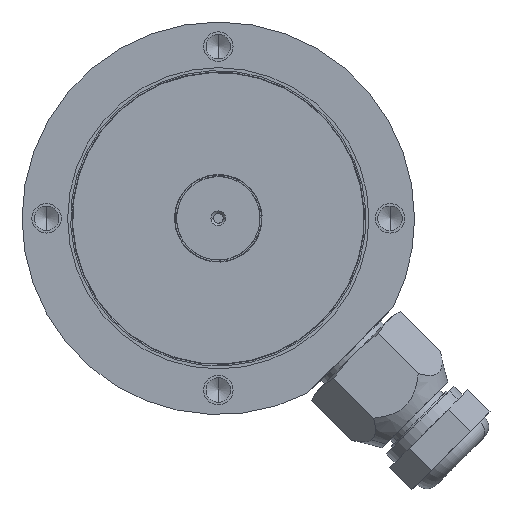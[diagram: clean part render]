
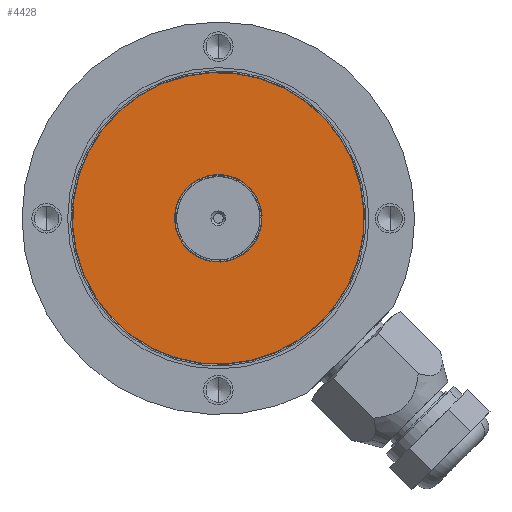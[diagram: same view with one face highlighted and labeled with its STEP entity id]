
A CAD part, front view. The second image highlights one B-rep face of the part: STEP entity #4428.
In plain terms, the highlighted planar face has unit normal (0, -1, 0) as drawn and (0, 1, 0) by its records, which use the part's own axes.
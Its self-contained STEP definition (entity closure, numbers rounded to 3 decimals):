
#56 = CARTESIAN_POINT ( 'NONE',  ( 0., 0., 8.925 ) ) ;
#154 = FACE_OUTER_BOUND ( 'NONE', #1436, .T. ) ;
#244 = DIRECTION ( 'NONE',  ( 0., 1., 0. ) ) ;
#264 = CARTESIAN_POINT ( 'NONE',  ( 0., 0., 29.7 ) ) ;
#401 = DIRECTION ( 'NONE',  ( 0., 0., 1. ) ) ;
#454 = AXIS2_PLACEMENT_3D ( 'NONE', #1449, #4664, #1891 ) ;
#465 = CIRCLE ( 'NONE', #454, 29.7 ) ;
#490 = EDGE_CURVE ( 'NONE', #786, #934, #465, .T. ) ;
#603 = CARTESIAN_POINT ( 'NONE',  ( 0., 0., -8.925 ) ) ;
#609 = DIRECTION ( 'NONE',  ( 0., 1., 0. ) ) ;
#616 = EDGE_CURVE ( 'NONE', #2981, #4676, #2312, .T. ) ;
#786 = VERTEX_POINT ( 'NONE', #264 ) ;
#934 = VERTEX_POINT ( 'NONE', #3589 ) ;
#1436 = EDGE_LOOP ( 'NONE', ( #1542, #1917 ) ) ;
#1449 = CARTESIAN_POINT ( 'NONE',  ( 0., 0., 0. ) ) ;
#1542 = ORIENTED_EDGE ( 'NONE', *, *, #490, .T. ) ;
#1891 = DIRECTION ( 'NONE',  ( 0., 0., 1. ) ) ;
#1917 = ORIENTED_EDGE ( 'NONE', *, *, #2556, .T. ) ;
#1962 = AXIS2_PLACEMENT_3D ( 'NONE', #2408, #5639, #2870 ) ;
#2312 = CIRCLE ( 'NONE', #2602, 8.925 ) ;
#2408 = CARTESIAN_POINT ( 'NONE',  ( 0., 0., 0. ) ) ;
#2556 = EDGE_CURVE ( 'NONE', #934, #786, #4975, .T. ) ;
#2602 = AXIS2_PLACEMENT_3D ( 'NONE', #3350, #609, #3823 ) ;
#2686 = AXIS2_PLACEMENT_3D ( 'NONE', #4980, #3141, #401 ) ;
#2796 = CIRCLE ( 'NONE', #1962, 8.925 ) ;
#2870 = DIRECTION ( 'NONE',  ( 0., 0., 1. ) ) ;
#2981 = VERTEX_POINT ( 'NONE', #56 ) ;
#2984 = CARTESIAN_POINT ( 'NONE',  ( 0., 0., 0. ) ) ;
#3141 = DIRECTION ( 'NONE',  ( 0., 1., 0. ) ) ;
#3350 = CARTESIAN_POINT ( 'NONE',  ( 0., 0., 0. ) ) ;
#3452 = DIRECTION ( 'NONE',  ( 0., 0., 1. ) ) ;
#3540 = AXIS2_PLACEMENT_3D ( 'NONE', #2984, #244, #3452 ) ;
#3589 = CARTESIAN_POINT ( 'NONE',  ( 0., 0., -29.7 ) ) ;
#3823 = DIRECTION ( 'NONE',  ( 0., 0., 1. ) ) ;
#3827 = FACE_BOUND ( 'NONE', #4470, .T. ) ;
#4064 = PLANE ( 'NONE',  #2686 ) ;
#4428 = ADVANCED_FACE ( 'NONE', ( #3827, #154 ), #4064, .T. ) ;
#4470 = EDGE_LOOP ( 'NONE', ( #4671, #4759 ) ) ;
#4647 = EDGE_CURVE ( 'NONE', #4676, #2981, #2796, .T. ) ;
#4664 = DIRECTION ( 'NONE',  ( 0., 1., 0. ) ) ;
#4671 = ORIENTED_EDGE ( 'NONE', *, *, #616, .F. ) ;
#4676 = VERTEX_POINT ( 'NONE', #603 ) ;
#4759 = ORIENTED_EDGE ( 'NONE', *, *, #4647, .F. ) ;
#4975 = CIRCLE ( 'NONE', #3540, 29.7 ) ;
#4980 = CARTESIAN_POINT ( 'NONE',  ( 0., 0., 0. ) ) ;
#5639 = DIRECTION ( 'NONE',  ( 0., 1., 0. ) ) ;
